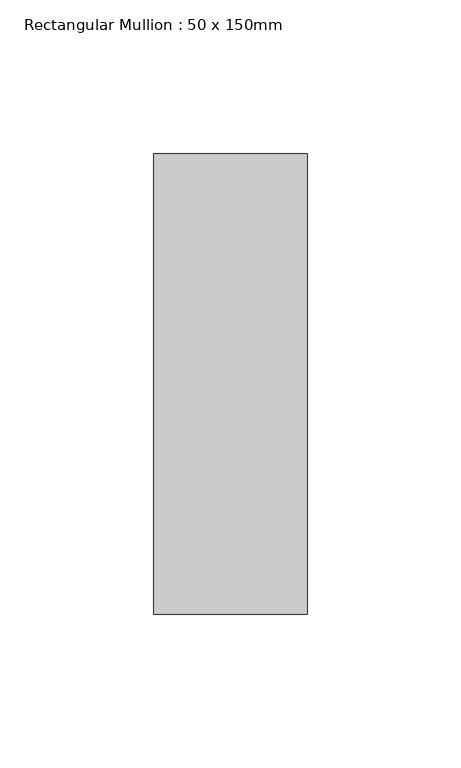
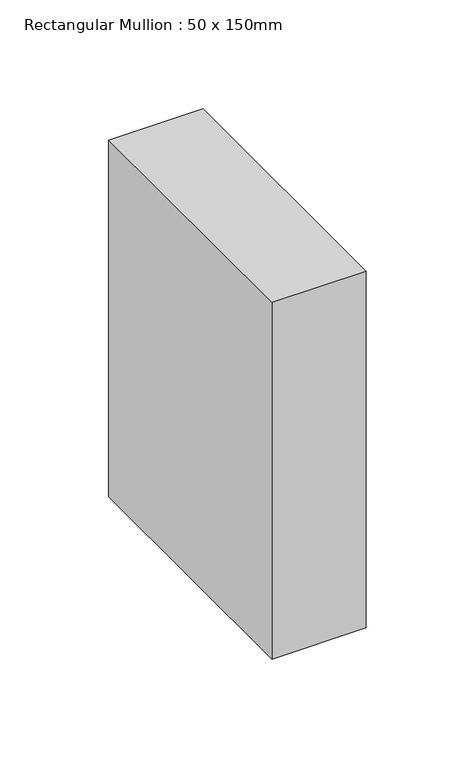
"""IFC4 building model written with IfcOpenShell, lengths in millimetres: member geometry, Rectangular Mullion : 50 x 150mm."""

from ifc_helpers import new_model, si_unit, frame, origin, place, context, project, spatial, polyline, outline, extrude, source, transform, mapped, element, save


def rectangular_mullion_50_x_150mm_3251d295(model_context):
    return source(origin(), model_context, "Body", "SweptSolid", [
        extrude(outline(polyline([(25.0, 75.0), (25.0, -75.0), (-25.0, -75.0), (-25.0, 75.0), (25.0, 75.0)])), frame((0.0, 0.0, -200.0), z_axis=(0.0, 0.0, 1.0), x_axis=(1.0, 0.0, 0.0)), (0.0, 0.0, 1.0), 200.0),
    ])


if __name__ == "__main__":
    model = new_model("IFC4")
    model_context = context("Model", 3, world=origin())
    ifc_project = project(units=[si_unit("LENGTHUNIT", "METRE", prefix="MILLI")], contexts=[model_context])
    site = spatial("IfcSite", under=ifc_project)
    building = spatial("IfcBuilding", under=site)
    placement = place(None, origin())
    rectangular_mullion_50_x_150mm_shape = rectangular_mullion_50_x_150mm_3251d295(model_context)
    element("IfcMember", 1, ObjectType="Rectangular Mullion : 50 x 150mm", at=placement, inside=building, context=model_context, shape_type="MappedRepresentation", body=[
        mapped(rectangular_mullion_50_x_150mm_shape, transform((0.0, 0.0, 0.0), x_axis=(1.0, 0.0, 0.0), y_axis=(0.0, 1.0, 0.0), z_axis=(0.0, 0.0, 1.0))),
    ])
    save(model, "model.ifc")
